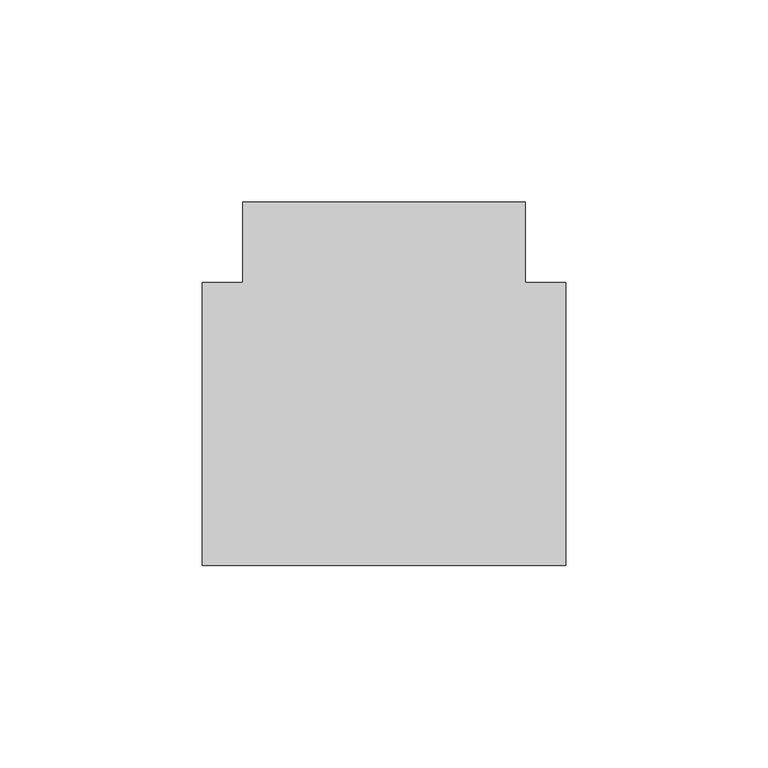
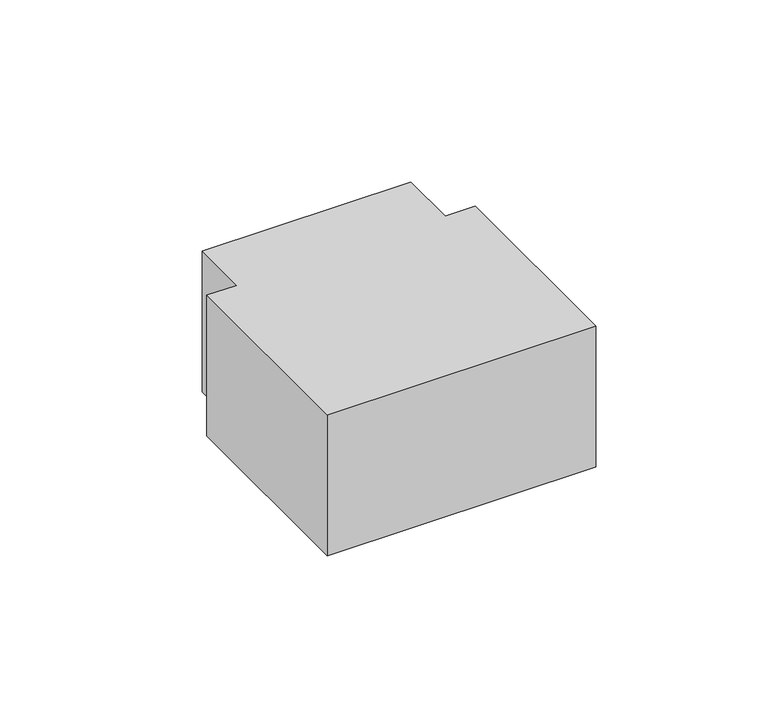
"""IFC4 building model written with IfcOpenShell, lengths in millimetres: cable carrier fitting geometry, КНС_Тройник_ILF_DKC : Белый."""

from ifc_helpers import new_model, si_unit, frame, origin, place, context, project, spatial, polyline, outline, extrude, faceted_brep, source, transform, mapped, element, save


def cable_carrier_fitting_51014b7c(model_context):
    return source(origin(), model_context, "Body", "SolidModel", [
        extrude(outline(polyline([(-35.0, 35.0), (-35.0, 55.0), (35.0, 55.0), (35.0, 35.0), (45.0, 35.0), (45.0, -35.0), (-45.0, -35.0), (-45.0, 35.0), (-35.0, 35.0)])), frame((0.0, 0.0, -25.0), z_axis=(0.0, 0.0, 1.0), x_axis=(1.0, 0.0, 0.0)), (0.0, 0.0, 1.0), 50.0),
        faceted_brep([(45.0, -32.46, -22.46), (45.0, 32.46, -22.46), (32.46, 32.46, -22.46), (32.46, 55.0, -22.46), (-32.46, 55.0, -22.46), (-32.46, 32.46, -22.46), (-45.0, 32.46, -22.46), (-45.0, -32.46, -22.46), (45.0, -35.0, -25.0), (-45.0, -35.0, -25.0), (-45.0, 35.0, -25.0), (-35.0, 35.0, -25.0), (-35.0, 55.0, -25.0), (35.0, 55.0, -25.0), (35.0, 35.0, -25.0), (45.0, 35.0, -25.0), (45.0, 35.0, 25.0), (45.0, 32.46, 25.0), (45.0, -32.46, 25.0), (45.0, -35.0, 25.0), (34.96, 35.0, 25.0), (35.0, 55.0, 25.0), (-34.96, 55.0, 25.0), (-32.46, 55.0, 25.0), (32.46, 55.0, 25.0), (-35.0, 35.0, 25.0), (-45.0, 35.0, 25.0), (-45.0, -35.0, 25.0), (-45.0, -32.46, 25.0), (-45.0, 32.46, 25.0), (32.46, 32.46, 25.0), (-32.46, 32.46, 25.0)], [[[0, 1, 2, 3, 4, 5, 6, 7]], [[8, 9, 10, 11, 12, 13, 14, 15]], [[8, 15, 16, 17, 1, 0, 18, 19]], [[16, 15, 14, 20]], [[20, 14, 13, 21]], [[21, 13, 12, 22, 23, 4, 3, 24]], [[22, 12, 11, 25]], [[25, 11, 10, 26]], [[26, 10, 9, 27, 28, 7, 6, 29]], [[27, 9, 8, 19]], [[20, 21, 24, 30, 17, 16]], [[25, 26, 29, 31, 23, 22]], [[27, 19, 18, 28]], [[31, 29, 6, 5]], [[23, 31, 5, 4]], [[30, 24, 3, 2]], [[17, 30, 2, 1]], [[28, 18, 0, 7]]]),
    ])


if __name__ == "__main__":
    model = new_model("IFC4")
    model_context = context("Model", 3, world=origin())
    ifc_project = project(units=[si_unit("LENGTHUNIT", "METRE", prefix="MILLI")], contexts=[model_context])
    site = spatial("IfcSite", under=ifc_project)
    building = spatial("IfcBuilding", under=site)
    placement = place(None, origin())
    cable_carrier_fitting_shape = cable_carrier_fitting_51014b7c(model_context)
    element("IfcCableCarrierFitting", 1, ObjectType="КНС_Тройник_ILF_DKC : Белый", at=placement, inside=building, context=model_context, shape_type="MappedRepresentation", body=[
        mapped(cable_carrier_fitting_shape, transform((0.0, 0.0, 0.0), x_axis=(1.0, 0.0, 0.0), y_axis=(0.0, 1.0, 0.0), z_axis=(0.0, 0.0, 1.0))),
    ])
    save(model, "model.ifc")
